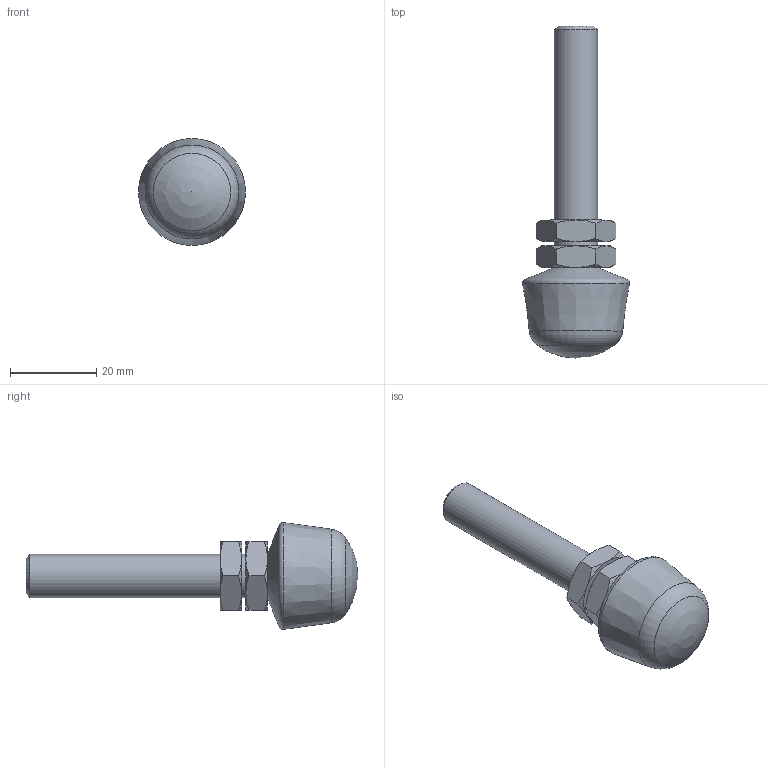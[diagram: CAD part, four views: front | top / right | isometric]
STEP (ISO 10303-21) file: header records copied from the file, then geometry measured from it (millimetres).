
FILE_DESCRIPTION( ( 'STEP AP203' ), '1' );
FILE_NAME( 'C:/Temp/Ganter_Step_05_03_2020/data/2_4/gn_708_1/gn_708_1_st/Clamping bolt GN 708.1-M10-77-B-ST (0).stp', '2020-03-13T05:51:13', ( 'License CC BY-ND 4.0' ), ( 'CADENAS' ), ' ', 'PARTsolutions', ' ' );
FILE_SCHEMA( ( 'CONFIG_CONTROL_DESIGN' ) );
Length unit declared in the file: millimetre
Products named in the file (3): Clamping bolt GN 708.1-M10-77-B-ST (0); _Andrueckschraube GN 708.1-M10-77-B-ST (0)-1; _Andrueckschraube GN 708.1-M10-77-B-ST-2
Assembly tree (3 placements, depth 2):
  Clamping bolt GN 708.1-M10-77-B-ST (0)
    _Andrueckschraube GN 708.1-M10-77-B-ST (0)-1
    _Andrueckschraube GN 708.1-M10-77-B-ST-2  x2
Bounding box: 24.8 x 77 x 24.8 mm (x, y, z)
Volume: 13266.4 mm3; surface area: 5039.1 mm2
Topology: 3 solids, 3 shells, 54 faces, 114 edges, 65 vertices
Faces by surface type: cone 31, plane 17, cylinder 3, torus 2, sphere 1
Full cylindrical faces by diameter (mm): 8.376 x2, 10 x1
Entity records: 958 total; most frequent: CARTESIAN_POINT 261, DIRECTION 122, ORIENTED_EDGE 106, AXIS2_PLACEMENT_3D 58, EDGE_CURVE 53, EDGE_LOOP 42, VERTEX_POINT 37, FACE_OUTER_BOUND 35
